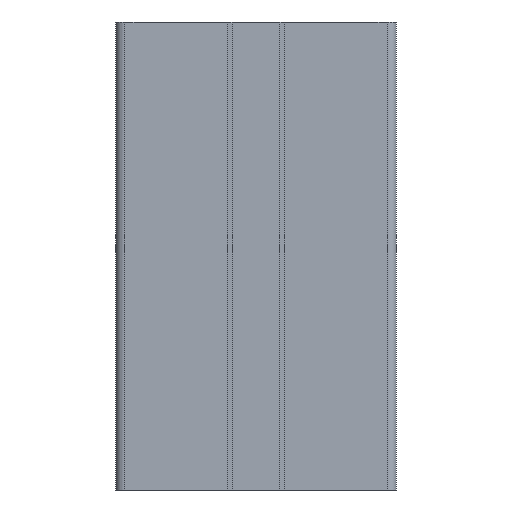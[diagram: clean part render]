
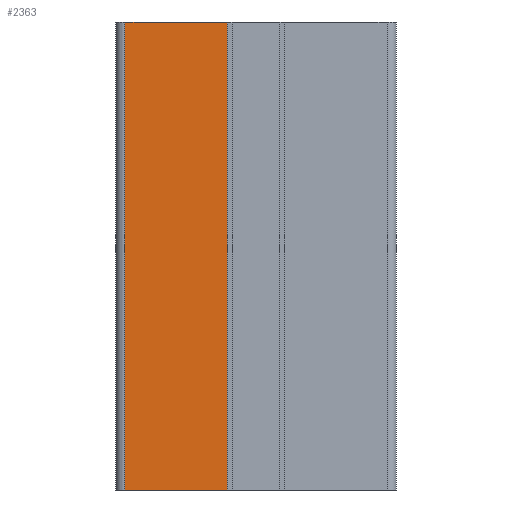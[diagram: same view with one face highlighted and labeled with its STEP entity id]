
A CAD part, front view. The second image highlights one B-rep face of the part: STEP entity #2363.
In plain terms, the highlighted planar face has unit normal (0, -1, 0).
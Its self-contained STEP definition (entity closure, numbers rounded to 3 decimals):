
#2 = VERTEX_POINT ( 'NONE', #3092 ) ;
#300 = CARTESIAN_POINT ( 'NONE',  ( 30., -30., -100. ) ) ;
#423 = CARTESIAN_POINT ( 'NONE',  ( 30., -30., -100. ) ) ;
#427 = VECTOR ( 'NONE', #953, 1000. ) ;
#511 = CARTESIAN_POINT ( 'NONE',  ( -28., -30., 0. ) ) ;
#797 = EDGE_LOOP ( 'NONE', ( #2793, #4523, #7668, #7355 ) ) ;
#953 = DIRECTION ( 'NONE',  ( 0., 0., 1. ) ) ;
#1060 = LINE ( 'NONE', #5054, #7179 ) ;
#1118 = LINE ( 'NONE', #1858, #2563 ) ;
#1225 = VECTOR ( 'NONE', #2278, 1000. ) ;
#1398 = VERTEX_POINT ( 'NONE', #511 ) ;
#1407 = EDGE_CURVE ( 'NONE', #1398, #2421, #1118, .T. ) ;
#1615 = CARTESIAN_POINT ( 'NONE',  ( -6.1, -30., 0. ) ) ;
#1682 = VERTEX_POINT ( 'NONE', #7500 ) ;
#1772 = FACE_OUTER_BOUND ( 'NONE', #797, .T. ) ;
#1858 = CARTESIAN_POINT ( 'NONE',  ( 30., -30., 0. ) ) ;
#2210 = CARTESIAN_POINT ( 'NONE',  ( -6.1, -30., -100. ) ) ;
#2278 = DIRECTION ( 'NONE',  ( 1., 0., 0. ) ) ;
#2363 = ADVANCED_FACE ( 'NONE', ( #1772 ), #5687, .T. ) ;
#2421 = VERTEX_POINT ( 'NONE', #1615 ) ;
#2433 = LINE ( 'NONE', #2210, #427 ) ;
#2563 = VECTOR ( 'NONE', #3672, 1000. ) ;
#2782 = DIRECTION ( 'NONE',  ( 1., 0., 0. ) ) ;
#2793 = ORIENTED_EDGE ( 'NONE', *, *, #2960, .T. ) ;
#2960 = EDGE_CURVE ( 'NONE', #2, #2421, #2433, .T. ) ;
#3092 = CARTESIAN_POINT ( 'NONE',  ( -6.1, -30., -100. ) ) ;
#3456 = LINE ( 'NONE', #423, #1225 ) ;
#3672 = DIRECTION ( 'NONE',  ( 1., 0., 0. ) ) ;
#3850 = EDGE_CURVE ( 'NONE', #1398, #1682, #1060, .T. ) ;
#3911 = DIRECTION ( 'NONE',  ( 0., 0., -1. ) ) ;
#4523 = ORIENTED_EDGE ( 'NONE', *, *, #1407, .F. ) ;
#4673 = EDGE_CURVE ( 'NONE', #1682, #2, #3456, .T. ) ;
#5054 = CARTESIAN_POINT ( 'NONE',  ( -28., -30., -100. ) ) ;
#5687 = PLANE ( 'NONE',  #7585 ) ;
#6293 = DIRECTION ( 'NONE',  ( 0., -1., 0. ) ) ;
#7179 = VECTOR ( 'NONE', #3911, 1000. ) ;
#7355 = ORIENTED_EDGE ( 'NONE', *, *, #4673, .T. ) ;
#7500 = CARTESIAN_POINT ( 'NONE',  ( -28., -30., -100. ) ) ;
#7585 = AXIS2_PLACEMENT_3D ( 'NONE', #300, #6293, #2782 ) ;
#7668 = ORIENTED_EDGE ( 'NONE', *, *, #3850, .T. ) ;
